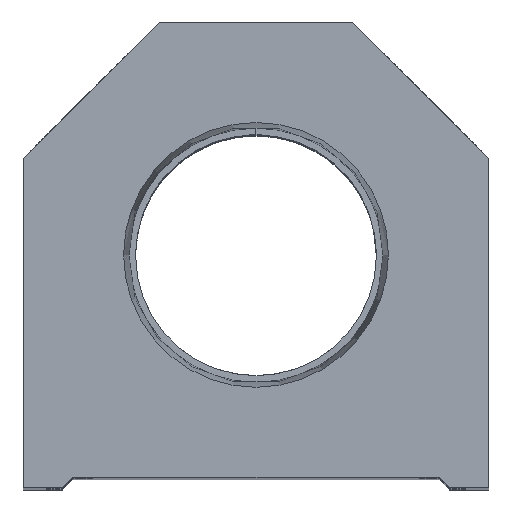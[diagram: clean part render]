
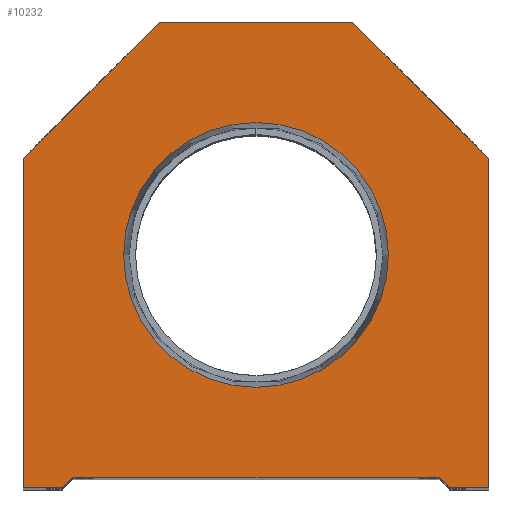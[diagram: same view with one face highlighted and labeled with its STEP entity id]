
A CAD part, top view. The second image highlights one B-rep face of the part: STEP entity #10232.
In plain terms, the highlighted planar face has unit normal (0, 0, 1).
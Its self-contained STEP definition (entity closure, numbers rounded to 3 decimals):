
#85 = ORIENTED_EDGE ( 'NONE', *, *, #7150, .F. ) ;
#89 = FACE_OUTER_BOUND ( 'NONE', #18428, .T. ) ;
#483 = CARTESIAN_POINT ( 'NONE',  ( 17.5, 1., 0. ) ) ;
#885 = DIRECTION ( 'NONE',  ( 0., 0., 1. ) ) ;
#944 = CARTESIAN_POINT ( 'NONE',  ( -17.5, 0., 0. ) ) ;
#951 = DIRECTION ( 'NONE',  ( 1., 0., 0. ) ) ;
#1033 = EDGE_CURVE ( 'NONE', #6363, #14832, #4069, .T. ) ;
#1184 = DIRECTION ( 'NONE',  ( 1., 0., 0. ) ) ;
#1275 = VERTEX_POINT ( 'NONE', #6725 ) ;
#1332 = LINE ( 'NONE', #2555, #9586 ) ;
#1682 = CARTESIAN_POINT ( 'NONE',  ( 0., 0., 0. ) ) ;
#1768 = ORIENTED_EDGE ( 'NONE', *, *, #5154, .T. ) ;
#1795 = CARTESIAN_POINT ( 'NONE',  ( -22.25, 0., 0. ) ) ;
#1831 = CARTESIAN_POINT ( 'NONE',  ( -22.25, 31.5, 0. ) ) ;
#1874 = CARTESIAN_POINT ( 'NONE',  ( 0., 22.25, 0. ) ) ;
#1907 = CARTESIAN_POINT ( 'NONE',  ( 22.25, 0., 0. ) ) ;
#2237 = ORIENTED_EDGE ( 'NONE', *, *, #4664, .T. ) ;
#2383 = EDGE_CURVE ( 'NONE', #10317, #8311, #13031, .T. ) ;
#2503 = VECTOR ( 'NONE', #10046, 1000. ) ;
#2555 = CARTESIAN_POINT ( 'NONE',  ( 22.25, 31.5, 0. ) ) ;
#2580 = CARTESIAN_POINT ( 'NONE',  ( 12.647, 22.25, 0. ) ) ;
#2587 = DIRECTION ( 'NONE',  ( 1., 0., 0. ) ) ;
#2900 = CARTESIAN_POINT ( 'NONE',  ( -18.5, 0., 0. ) ) ;
#3573 = DIRECTION ( 'NONE',  ( -0.707, -0.707, 0. ) ) ;
#3611 = DIRECTION ( 'NONE',  ( 0., 1., 0. ) ) ;
#4069 = LINE ( 'NONE', #16603, #8405 ) ;
#4219 = VERTEX_POINT ( 'NONE', #483 ) ;
#4664 = EDGE_CURVE ( 'NONE', #14832, #6585, #13983, .T. ) ;
#4902 = ORIENTED_EDGE ( 'NONE', *, *, #10361, .T. ) ;
#5154 = EDGE_CURVE ( 'NONE', #15858, #1275, #16849, .T. ) ;
#5219 = EDGE_CURVE ( 'NONE', #8311, #4219, #5778, .T. ) ;
#5290 = ORIENTED_EDGE ( 'NONE', *, *, #9352, .T. ) ;
#5352 = CARTESIAN_POINT ( 'NONE',  ( -9.25, 9.25, 0. ) ) ;
#5778 = LINE ( 'NONE', #16233, #12321 ) ;
#6310 = VERTEX_POINT ( 'NONE', #2580 ) ;
#6314 = VERTEX_POINT ( 'NONE', #12952 ) ;
#6363 = VERTEX_POINT ( 'NONE', #14823 ) ;
#6475 = DIRECTION ( 'NONE',  ( 0., -1., 0. ) ) ;
#6585 = VERTEX_POINT ( 'NONE', #16092 ) ;
#6725 = CARTESIAN_POINT ( 'NONE',  ( -22.25, 0., 0. ) ) ;
#6739 = LINE ( 'NONE', #944, #2503 ) ;
#6955 = CARTESIAN_POINT ( 'NONE',  ( -9.25, 44.5, 0. ) ) ;
#7150 = EDGE_CURVE ( 'NONE', #6310, #6314, #16852, .T. ) ;
#7723 = CARTESIAN_POINT ( 'NONE',  ( 9.25, 44.5, 0. ) ) ;
#7852 = ORIENTED_EDGE ( 'NONE', *, *, #2383, .T. ) ;
#7973 = DIRECTION ( 'NONE',  ( 0., 0., 1. ) ) ;
#8308 = EDGE_LOOP ( 'NONE', ( #85, #13121 ) ) ;
#8311 = VERTEX_POINT ( 'NONE', #12735 ) ;
#8405 = VECTOR ( 'NONE', #951, 1000. ) ;
#8412 = VERTEX_POINT ( 'NONE', #17816 ) ;
#8515 = ORIENTED_EDGE ( 'NONE', *, *, #8781, .T. ) ;
#8671 = DIRECTION ( 'NONE',  ( 1., 0., 0. ) ) ;
#8781 = EDGE_CURVE ( 'NONE', #8412, #11717, #10628, .T. ) ;
#9015 = ORIENTED_EDGE ( 'NONE', *, *, #5219, .T. ) ;
#9352 = EDGE_CURVE ( 'NONE', #6585, #8412, #1332, .T. ) ;
#9481 = LINE ( 'NONE', #11340, #16671 ) ;
#9586 = VECTOR ( 'NONE', #19289, 1000. ) ;
#9612 = EDGE_CURVE ( 'NONE', #4219, #6363, #18671, .T. ) ;
#9674 = CIRCLE ( 'NONE', #10330, 12.647 ) ;
#10046 = DIRECTION ( 'NONE',  ( 1., 0., 0. ) ) ;
#10205 = EDGE_CURVE ( 'NONE', #6314, #6310, #9674, .T. ) ;
#10232 = ADVANCED_FACE ( 'NONE', ( #13765, #89 ), #19543, .T. ) ;
#10317 = VERTEX_POINT ( 'NONE', #2900 ) ;
#10330 = AXIS2_PLACEMENT_3D ( 'NONE', #19345, #885, #1184 ) ;
#10361 = EDGE_CURVE ( 'NONE', #11717, #15858, #9481, .T. ) ;
#10587 = DIRECTION ( 'NONE',  ( 0., 0., 1. ) ) ;
#10628 = LINE ( 'NONE', #7723, #10829 ) ;
#10829 = VECTOR ( 'NONE', #16589, 1000. ) ;
#11104 = CARTESIAN_POINT ( 'NONE',  ( 9.25, 9.25, 0. ) ) ;
#11120 = ORIENTED_EDGE ( 'NONE', *, *, #1033, .T. ) ;
#11135 = AXIS2_PLACEMENT_3D ( 'NONE', #1874, #7973, #8671 ) ;
#11328 = VECTOR ( 'NONE', #3611, 1000. ) ;
#11340 = CARTESIAN_POINT ( 'NONE',  ( -22.25, 31.5, 0. ) ) ;
#11717 = VERTEX_POINT ( 'NONE', #6955 ) ;
#12017 = VECTOR ( 'NONE', #6475, 1000. ) ;
#12321 = VECTOR ( 'NONE', #2587, 1000. ) ;
#12735 = CARTESIAN_POINT ( 'NONE',  ( -17.5, 1., 0. ) ) ;
#12952 = CARTESIAN_POINT ( 'NONE',  ( -12.647, 22.25, 0. ) ) ;
#13031 = LINE ( 'NONE', #5352, #18931 ) ;
#13121 = ORIENTED_EDGE ( 'NONE', *, *, #10205, .F. ) ;
#13765 = FACE_BOUND ( 'NONE', #8308, .T. ) ;
#13983 = LINE ( 'NONE', #1907, #11328 ) ;
#14183 = DIRECTION ( 'NONE',  ( 0.707, -0.707, 0. ) ) ;
#14823 = CARTESIAN_POINT ( 'NONE',  ( 18.5, 0., 0. ) ) ;
#14832 = VERTEX_POINT ( 'NONE', #18430 ) ;
#15624 = EDGE_CURVE ( 'NONE', #1275, #10317, #6739, .T. ) ;
#15858 = VERTEX_POINT ( 'NONE', #1831 ) ;
#16089 = DIRECTION ( 'NONE',  ( 0.707, 0.707, 0. ) ) ;
#16092 = CARTESIAN_POINT ( 'NONE',  ( 22.25, 31.5, 0. ) ) ;
#16233 = CARTESIAN_POINT ( 'NONE',  ( -17.5, 1., 0. ) ) ;
#16589 = DIRECTION ( 'NONE',  ( -1., 0., 0. ) ) ;
#16603 = CARTESIAN_POINT ( 'NONE',  ( 17.5, 0., 0. ) ) ;
#16671 = VECTOR ( 'NONE', #3573, 1000. ) ;
#16836 = DIRECTION ( 'NONE',  ( 1., 0., 0. ) ) ;
#16849 = LINE ( 'NONE', #1795, #12017 ) ;
#16852 = CIRCLE ( 'NONE', #11135, 12.647 ) ;
#17361 = VECTOR ( 'NONE', #14183, 1000. ) ;
#17816 = CARTESIAN_POINT ( 'NONE',  ( 9.25, 44.5, 0. ) ) ;
#18428 = EDGE_LOOP ( 'NONE', ( #19082, #7852, #9015, #18664, #11120, #2237, #5290, #8515, #4902, #1768 ) ) ;
#18430 = CARTESIAN_POINT ( 'NONE',  ( 22.25, 0., 0. ) ) ;
#18664 = ORIENTED_EDGE ( 'NONE', *, *, #9612, .T. ) ;
#18671 = LINE ( 'NONE', #11104, #17361 ) ;
#18931 = VECTOR ( 'NONE', #16089, 1000. ) ;
#19082 = ORIENTED_EDGE ( 'NONE', *, *, #15624, .T. ) ;
#19223 = AXIS2_PLACEMENT_3D ( 'NONE', #1682, #10587, #16836 ) ;
#19289 = DIRECTION ( 'NONE',  ( -0.707, 0.707, 0. ) ) ;
#19345 = CARTESIAN_POINT ( 'NONE',  ( 0., 22.25, 0. ) ) ;
#19543 = PLANE ( 'NONE',  #19223 ) ;
